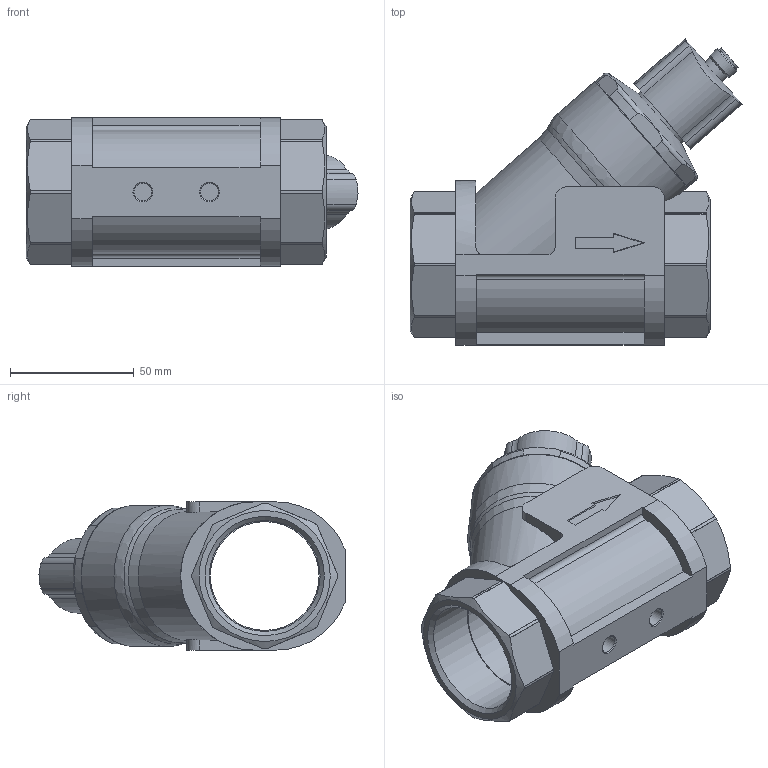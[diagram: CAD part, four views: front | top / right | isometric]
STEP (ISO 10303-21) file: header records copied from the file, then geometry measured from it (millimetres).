
FILE_DESCRIPTION(/* description */ ('STEP AP203'),/* implementation_level */ '2;1');
FILE_NAME(/* name */ 'P_MZ_300_0377',/* time_stamp */ '2023-09-18T09:50:41+02:00',/* author */ ('License CC BY-ND 4.0'),/* organization */ ('CADENAS'),/* preprocessor_version */ 'ST-DEVELOPER v19.3',/* originating_system */ 'PARTsolutions',/* authorisation */ ' ');
FILE_SCHEMA (('CONFIG_CONTROL_DESIGN'));
Length unit declared in the file: millimetre
Products named in the file (1): P_MZ_300_0377
Bounding box: 134.31 x 123.8 x 60 mm (x, y, z)
Volume: 286378.9 mm3; surface area: 57037.2 mm2
Topology: 1 solids, 1 shells, 187 faces, 500 edges, 325 vertices
Faces by surface type: cylinder 97, plane 75, cone 11, torus 4
Full cylindrical faces by diameter (mm): 7.188 x2, 8.4 x1, 10.5 x1, 10.6 x1, 12 x1, 27 x1, 44 x1, 44.845 x2, 57 x1
Entity records: 7235 total; most frequent: CARTESIAN_POINT 1367, ORIENTED_EDGE 942, DIRECTION 935, EDGE_CURVE 471, AXIS2_PLACEMENT_3D 360, VERTEX_POINT 319, EDGE_LOOP 222, FACE_BOUND 222
